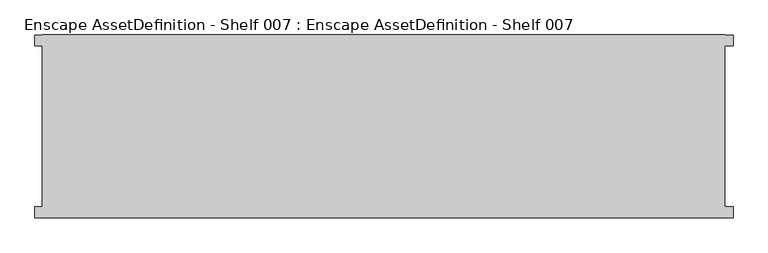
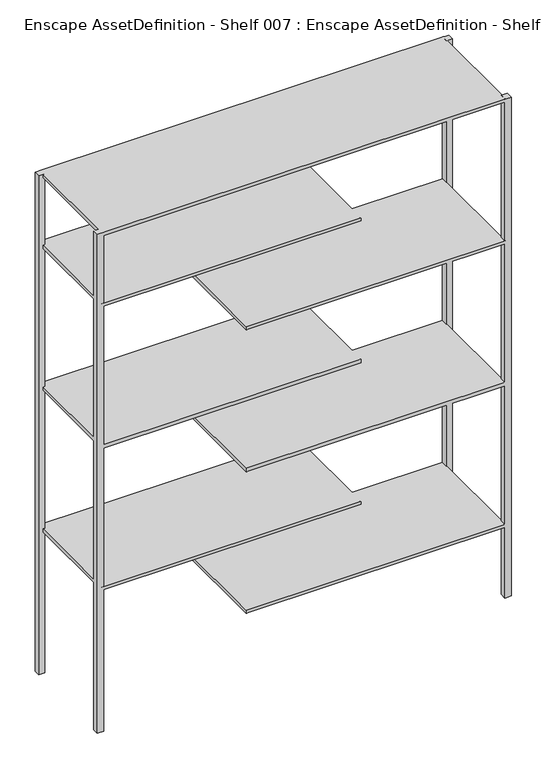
"""IFC4 building model written with IfcOpenShell, lengths in millimetres: geographic element geometry, Enscape AssetDefinition - Shelf 007 : Enscape AssetDefinition - Shelf 007."""

from ifc_helpers import new_model, si_unit, origin, place, context, project, spatial, triangles, source, transform, mapped, element, save


def enscape_assetdefinition_shelf_007_enscape_assetdefinition_9bca5802(model_context):
    return source(origin(), model_context, "Body", "Tessellation", [
        triangles([(804.1307859, -214.7457584, 2086.0146778), (-806.8920273, -214.7457584, 2086.0146778), (804.1307859, 216.208042, 2086.0146778), (804.1307859, -214.7457584, 2099.7078827), (-806.8920273, 216.208042, 2099.7078827), (804.1307859, 216.208042, 2099.7078827), (-806.8920273, -214.7457584, 2099.7078827), (-806.8920273, 216.208042, 2086.0146778), (226.7139959, -214.7457584, 1801.7074677), (-806.8920273, -214.7457584, 1788.0139721), (-806.8920273, 216.208042, 1788.0139721), (-806.8920273, 216.208042, 1801.7074677), (226.7139959, 216.208042, 1788.0139721), (226.7139959, -214.7457584, 1788.0139721), (226.7139959, 216.208042, 1801.7074677), (-806.8920273, -214.7457584, 1801.7074677), (-231.7389254, -214.7457403, 1489.7468582), (-231.7389254, -214.7457403, 1503.4397724), (801.8671886, 216.2080602, 1489.7468582), (801.8671886, -214.7457403, 1489.7468582), (801.8671886, 216.2080602, 1503.4397724), (801.8671886, -214.7457403, 1503.4397724), (-231.7389254, 216.2080602, 1503.4397724), (-231.7389254, 216.2080602, 1489.7468582), (-806.8920273, -214.7457403, 1191.3534439), (226.7139959, 216.2080602, 1191.3534439), (226.7139959, -214.7457403, 1191.3534439), (226.7139959, -214.7457403, 1205.0467215), (-806.8920273, 216.2080602, 1191.3534439), (-806.8920273, 216.2080602, 1205.0467215), (226.7139959, 216.2080602, 1205.0467215), (-806.8920273, -214.7457403, 1205.0467215), (-231.7389254, -214.7457221, 906.7897087), (-231.7389254, -214.7457221, 893.0965765), (801.8671886, -214.7457221, 906.7897087), (801.8671886, -214.7457221, 893.0965765), (801.8671886, 216.2080965, 893.0965765), (-231.7389254, 216.2080965, 906.7897087), (801.8671886, 216.2080965, 906.7897087), (-231.7389254, 216.2080965, 893.0965765), (226.7139959, 216.2080965, 594.6788177), (-806.8920273, -214.7457221, 594.6788177), (226.7139959, -214.7457221, 594.6788177), (226.7139959, -214.7457221, 608.3720226), (-806.8920273, 216.2080965, 594.6788177), (226.7139959, 216.2080965, 608.3720226), (-806.8920273, -214.7457221, 608.3720226), (-806.8920273, 216.2080965, 608.3720226), (-231.7389254, -214.7457221, 296.2837865), (801.8671886, -214.7457221, 309.9769732), (-231.7389254, -214.7457221, 309.9769732), (-231.7389254, 216.2080965, 309.9769732), (801.8671886, -214.7457221, 296.2837865), (801.8671886, 216.2080965, 296.2837865), (801.8671886, 216.2080965, 309.9769732), (-231.7389254, 216.2080965, 296.2837865), (824.2407503, -214.9471996, 0.0), (799.5506149, -214.9471996, 0.0), (824.2407503, -214.9471996, 2100.000016), (799.5506149, -190.0345306, 0.0), (799.5506149, -214.9471996, 2100.000016), (824.2407503, -190.0345306, 2100.000016), (824.2407503, -190.0345306, 0.0), (799.5506149, -190.0345306, 2100.000016), (799.5506149, 190.0282446, 0.0), (799.5506149, 214.9409682, 0.0), (824.2407503, 190.0282446, 0.0), (824.2407503, 214.9409682, 0.0), (824.2407503, 190.0282446, 2100.000016), (799.5506149, 190.0282446, 2100.000016), (824.2407503, 214.9409682, 2100.000016), (799.5506149, 214.9409682, 2100.000016), (-824.2407503, -214.9471996, 2100.000016), (-824.2407503, -214.9471996, 0.0), (-799.5504696, -190.0345306, 0.0), (-799.5504696, -214.9471996, 0.0), (-799.5504696, -214.9471996, 2100.000016), (-799.5504696, -190.0345306, 2100.000016), (-824.2407503, -190.0345306, 0.0), (-824.2407503, -190.0345306, 2100.000016), (-799.5504696, 190.0282446, 0.0), (-799.5504696, 190.0282446, 2100.000016), (-824.2407503, 214.9409682, 0.0), (-824.2407503, 190.0282446, 0.0), (-824.2407503, 190.0282446, 2100.000016), (-824.2407503, 214.9409682, 2100.000016), (-799.5504696, 214.9409682, 0.0), (-799.5504696, 214.9409682, 2100.000016)], [[83, 85, 86], [85, 88, 86], [85, 82, 88], [81, 88, 82], [87, 83, 86], [81, 87, 88], [87, 86, 88], [83, 84, 85], [84, 81, 82], [84, 83, 87], [84, 82, 85], [84, 87, 81], [79, 73, 80], [73, 78, 80], [73, 77, 78], [76, 78, 77], [75, 79, 80], [76, 75, 78], [75, 80, 78], [79, 74, 73], [74, 76, 77], [74, 79, 75], [74, 77, 73], [74, 75, 76], [66, 70, 72], [70, 71, 72], [70, 69, 71], [67, 71, 69], [68, 66, 72], [67, 68, 71], [68, 72, 71], [66, 65, 70], [65, 67, 69], [65, 66, 68], [65, 69, 70], [65, 68, 67], [60, 61, 64], [61, 62, 64], [61, 59, 62], [57, 62, 59], [63, 60, 64], [57, 63, 62], [63, 64, 62], [60, 58, 61], [58, 57, 59], [58, 60, 63], [58, 59, 61], [58, 63, 57], [56, 51, 52], [51, 55, 52], [51, 50, 55], [53, 55, 50], [54, 56, 52], [53, 54, 55], [54, 52, 55], [56, 49, 51], [49, 53, 50], [49, 56, 54], [49, 50, 51], [49, 54, 53], [45, 47, 48], [47, 46, 48], [47, 44, 46], [43, 46, 44], [41, 45, 48], [43, 41, 46], [41, 48, 46], [45, 42, 47], [42, 43, 44], [42, 45, 41], [42, 44, 47], [42, 41, 43], [40, 33, 38], [33, 39, 38], [33, 35, 39], [36, 39, 35], [37, 40, 38], [36, 37, 39], [37, 38, 39], [40, 34, 33], [34, 36, 35], [34, 40, 37], [34, 35, 33], [34, 37, 36], [29, 32, 30], [32, 31, 30], [32, 28, 31], [27, 31, 28], [26, 29, 30], [27, 26, 31], [26, 30, 31], [29, 25, 32], [25, 27, 28], [25, 29, 26], [25, 28, 32], [25, 26, 27], [24, 18, 23], [18, 21, 23], [18, 22, 21], [20, 21, 22], [19, 24, 23], [20, 19, 21], [19, 23, 21], [24, 17, 18], [17, 20, 22], [17, 24, 19], [17, 22, 18], [17, 19, 20], [11, 16, 12], [16, 15, 12], [16, 9, 15], [14, 15, 9], [13, 11, 12], [14, 13, 15], [13, 12, 15], [11, 10, 16], [10, 14, 9], [10, 11, 13], [10, 9, 16], [10, 13, 14], [8, 7, 5], [7, 6, 5], [7, 4, 6], [1, 6, 4], [3, 8, 5], [1, 3, 6], [3, 5, 6], [8, 2, 7], [2, 1, 4], [2, 8, 3], [2, 4, 7], [2, 3, 1]]),
    ])


if __name__ == "__main__":
    model = new_model("IFC4")
    model_context = context("Model", 3, world=origin())
    ifc_project = project(units=[si_unit("LENGTHUNIT", "METRE", prefix="MILLI")], contexts=[model_context])
    site = spatial("IfcSite", under=ifc_project)
    building = spatial("IfcBuilding", under=site)
    placement = place(None, origin())
    enscape_assetdefinition_shelf_007_enscape_assetdefinition_shape = enscape_assetdefinition_shelf_007_enscape_assetdefinition_9bca5802(model_context)
    element("IfcGeographicElement", 1, ObjectType="Enscape AssetDefinition - Shelf 007 : Enscape AssetDefinition - Shelf 007", at=placement, inside=building, context=model_context, shape_type="MappedRepresentation", body=[
        mapped(enscape_assetdefinition_shelf_007_enscape_assetdefinition_shape, transform((0.0, 0.0, 0.0), x_axis=(1.0, 0.0, 0.0), y_axis=(0.0, 1.0, 0.0), z_axis=(0.0, 0.0, 1.0))),
    ])
    save(model, "model.ifc")
